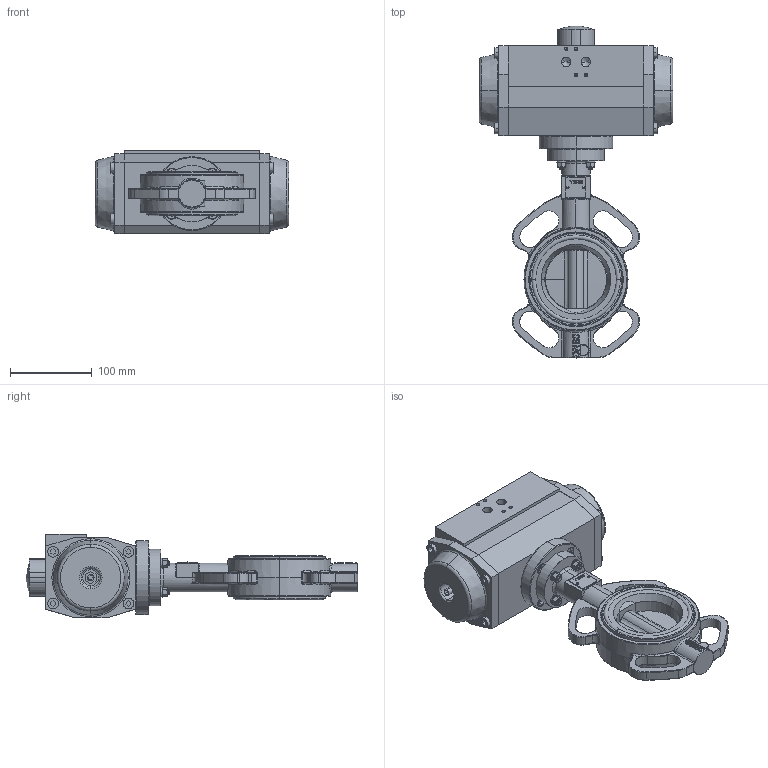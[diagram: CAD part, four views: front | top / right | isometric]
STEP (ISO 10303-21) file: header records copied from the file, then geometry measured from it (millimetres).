
FILE_DESCRIPTION (( 'STEP AP214' ), '1' );
FILE_NAME ('VTB200 DN80 + AP3.5S.STEP', '2015-10-04T19:17:47', ( '' ), ( '' ), 'SwSTEP 2.0', 'SolidWorks 2013', '' );
FILE_SCHEMA (( 'AUTOMOTIVE_DESIGN' ));
Length unit declared in the file: millimetre
Products named in the file (13): Verloopvierkant 11_9; VTB200 Wafer DN80 BS; Typeplaatje xxmm; Huis met zitting DN80 2013; Klep VTB200 DN80 2013; VTB200 DN80 + AP3.5S; hex nut gradec_din_Hexagon Nut ISO 4034 - M6 - N; hex bolt gradec_din_ISO 4016 - M6 x 35 x 18-WN; socket head cap screw_din_DIN 912 M8 x 16 --- 16N; YF090F5F7H16D16NYL; Verloopster 17_11; AP3.5_Default<As Machined>; plain washer grade a_din_Washer DIN 125 - A 6.4
Assembly tree (24 placements, depth 3):
  VTB200 DN80 + AP3.5S
    VTB200 Wafer DN80 BS
      Klep VTB200 DN80 2013
      Huis met zitting DN80 2013
      Typeplaatje xxmm
    Verloopvierkant 11_9
    plain washer grade a_din_Washer DIN 125 - A 6.4  x4
    AP3.5_Default<As Machined>
    Verloopster 17_11
    YF090F5F7H16D16NYL
    socket head cap screw_din_DIN 912 M8 x 16 --- 16N  x4
    hex bolt gradec_din_ISO 4016 - M6 x 35 x 18-WN  x4
    hex nut gradec_din_Hexagon Nut ISO 4034 - M6 - N  x4
Bounding box: 236 x 404.99 x 102 mm (x, y, z)
Volume: 2995357.6 mm3; surface area: 327245.9 mm2
Topology: 31 solids, 31 shells, 1425 faces, 3372 edges, 2040 vertices
Faces by surface type: plane 517, cylinder 335, torus 200, bspline 195, cone 164, sphere 14
Entity records: 54947 total; most frequent: CARTESIAN_POINT 26178, ORIENTED_EDGE 5524, DIRECTION 5307, EDGE_CURVE 2762, AXIS2_PLACEMENT_3D 2094, VERTEX_POINT 1719, EDGE_LOOP 1293, FACE_OUTER_BOUND 1161
